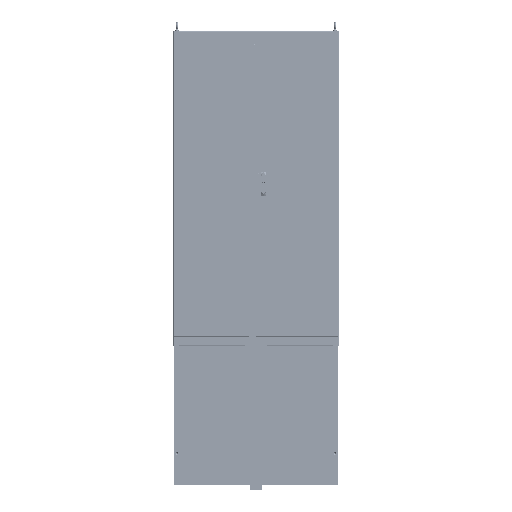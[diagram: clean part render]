
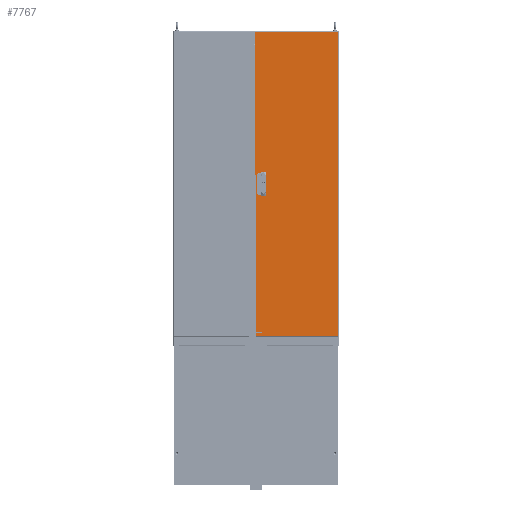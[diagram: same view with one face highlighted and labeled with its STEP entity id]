
A CAD part, front view. The second image highlights one B-rep face of the part: STEP entity #7767.
In plain terms, the highlighted planar face has unit normal (0, -1, 0).
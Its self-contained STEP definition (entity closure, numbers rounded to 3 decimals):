
#7767 = ADVANCED_FACE( '', ( #11697, #11698, #11699, #11700, #11701, #11702 ), #11703, .T. );
#11697 = FACE_BOUND( '', #18807, .T. );
#11698 = FACE_BOUND( '', #18808, .T. );
#11699 = FACE_BOUND( '', #18809, .T. );
#11700 = FACE_OUTER_BOUND( '', #18810, .T. );
#11701 = FACE_BOUND( '', #18811, .T. );
#11702 = FACE_BOUND( '', #18812, .T. );
#11703 = PLANE( '', #18813 );
#18807 = EDGE_LOOP( '', ( #32538, #32539, #32540, #32541 ) );
#18808 = EDGE_LOOP( '', ( #32542 ) );
#18809 = EDGE_LOOP( '', ( #32543, #32544, #32545, #32546 ) );
#18810 = EDGE_LOOP( '', ( #32547, #32548, #32549, #32550 ) );
#18811 = EDGE_LOOP( '', ( #32551, #32552, #32553, #32554 ) );
#18812 = EDGE_LOOP( '', ( #32555 ) );
#18813 = AXIS2_PLACEMENT_3D( '', #32556, #32557, #32558 );
#32538 = ORIENTED_EDGE( '', *, *, #50202, .F. );
#32539 = ORIENTED_EDGE( '', *, *, #50203, .F. );
#32540 = ORIENTED_EDGE( '', *, *, #50204, .F. );
#32541 = ORIENTED_EDGE( '', *, *, #50205, .F. );
#32542 = ORIENTED_EDGE( '', *, *, #50206, .T. );
#32543 = ORIENTED_EDGE( '', *, *, #50207, .F. );
#32544 = ORIENTED_EDGE( '', *, *, #50208, .F. );
#32545 = ORIENTED_EDGE( '', *, *, #50209, .F. );
#32546 = ORIENTED_EDGE( '', *, *, #50210, .F. );
#32547 = ORIENTED_EDGE( '', *, *, #50211, .T. );
#32548 = ORIENTED_EDGE( '', *, *, #50212, .F. );
#32549 = ORIENTED_EDGE( '', *, *, #50213, .F. );
#32550 = ORIENTED_EDGE( '', *, *, #50214, .F. );
#32551 = ORIENTED_EDGE( '', *, *, #50215, .T. );
#32552 = ORIENTED_EDGE( '', *, *, #50216, .T. );
#32553 = ORIENTED_EDGE( '', *, *, #50217, .T. );
#32554 = ORIENTED_EDGE( '', *, *, #50218, .T. );
#32555 = ORIENTED_EDGE( '', *, *, #50219, .T. );
#32556 = CARTESIAN_POINT( '', ( -289.751, 0., -1059.656 ) );
#32557 = DIRECTION( '', ( 0., -1., 0. ) );
#32558 = DIRECTION( '', ( 0., 0., -1. ) );
#50202 = EDGE_CURVE( '', #58129, #58130, #58131, .T. );
#50203 = EDGE_CURVE( '', #58132, #58129, #58133, .T. );
#50204 = EDGE_CURVE( '', #58134, #58132, #58135, .T. );
#50205 = EDGE_CURVE( '', #58130, #58134, #58136, .T. );
#50206 = EDGE_CURVE( '', #58137, #58137, #58138, .T. );
#50207 = EDGE_CURVE( '', #58139, #58140, #58141, .T. );
#50208 = EDGE_CURVE( '', #58142, #58139, #58143, .T. );
#50209 = EDGE_CURVE( '', #58144, #58142, #58145, .T. );
#50210 = EDGE_CURVE( '', #58140, #58144, #58146, .T. );
#50211 = EDGE_CURVE( '', #58147, #58148, #58149, .T. );
#50212 = EDGE_CURVE( '', #58150, #58148, #58151, .T. );
#50213 = EDGE_CURVE( '', #58152, #58150, #58153, .T. );
#50214 = EDGE_CURVE( '', #58147, #58152, #58154, .T. );
#50215 = EDGE_CURVE( '', #58155, #58156, #58157, .T. );
#50216 = EDGE_CURVE( '', #58156, #58158, #58159, .T. );
#50217 = EDGE_CURVE( '', #58158, #58160, #58161, .T. );
#50218 = EDGE_CURVE( '', #58160, #58155, #58162, .T. );
#50219 = EDGE_CURVE( '', #58163, #58163, #58164, .T. );
#58129 = VERTEX_POINT( '', #71039 );
#58130 = VERTEX_POINT( '', #71040 );
#58131 = LINE( '', #71041, #71042 );
#58132 = VERTEX_POINT( '', #71043 );
#58133 = LINE( '', #71044, #71045 );
#58134 = VERTEX_POINT( '', #71046 );
#58135 = LINE( '', #71047, #71048 );
#58136 = LINE( '', #71049, #71050 );
#58137 = VERTEX_POINT( '', #71051 );
#58138 = CIRCLE( '', #71052, 4.013 );
#58139 = VERTEX_POINT( '', #71053 );
#58140 = VERTEX_POINT( '', #71054 );
#58141 = LINE( '', #71055, #71056 );
#58142 = VERTEX_POINT( '', #71057 );
#58143 = LINE( '', #71058, #71059 );
#58144 = VERTEX_POINT( '', #71060 );
#58145 = LINE( '', #71061, #71062 );
#58146 = LINE( '', #71063, #71064 );
#58147 = VERTEX_POINT( '', #71065 );
#58148 = VERTEX_POINT( '', #71066 );
#58149 = LINE( '', #71067, #71068 );
#58150 = VERTEX_POINT( '', #71069 );
#58151 = LINE( '', #71070, #71071 );
#58152 = VERTEX_POINT( '', #71072 );
#58153 = LINE( '', #71073, #71074 );
#58154 = LINE( '', #71075, #71076 );
#58155 = VERTEX_POINT( '', #71077 );
#58156 = VERTEX_POINT( '', #71078 );
#58157 = LINE( '', #71079, #71080 );
#58158 = VERTEX_POINT( '', #71081 );
#58159 = LINE( '', #71082, #71083 );
#58160 = VERTEX_POINT( '', #71084 );
#58161 = LINE( '', #71085, #71086 );
#58162 = LINE( '', #71087, #71088 );
#58163 = VERTEX_POINT( '', #71089 );
#58164 = CIRCLE( '', #71090, 4.013 );
#71039 = CARTESIAN_POINT( '', ( -242.233, 0., 75.006 ) );
#71040 = CARTESIAN_POINT( '', ( -242.233, 0., 24.994 ) );
#71041 = CARTESIAN_POINT( '', ( -242.233, 0., 75.006 ) );
#71042 = VECTOR( '', #88706, 1000. );
#71043 = CARTESIAN_POINT( '', ( -217.239, 0., 75.006 ) );
#71044 = CARTESIAN_POINT( '', ( -217.239, 0., 75.006 ) );
#71045 = VECTOR( '', #88707, 1000. );
#71046 = CARTESIAN_POINT( '', ( -217.239, 0., 24.994 ) );
#71047 = CARTESIAN_POINT( '', ( -217.239, 0., 24.994 ) );
#71048 = VECTOR( '', #88708, 1000. );
#71049 = CARTESIAN_POINT( '', ( -242.233, 0., 24.994 ) );
#71050 = VECTOR( '', #88709, 1000. );
#71051 = CARTESIAN_POINT( '', ( -261.714, 0., 35.001 ) );
#71052 = AXIS2_PLACEMENT_3D( '', #88710, #88711, #88712 );
#71053 = CARTESIAN_POINT( '', ( -266.248, 0., 15.875 ) );
#71054 = CARTESIAN_POINT( '', ( -266.248, 0., -15.875 ) );
#71055 = CARTESIAN_POINT( '', ( -266.248, 0., 15.875 ) );
#71056 = VECTOR( '', #88713, 1000. );
#71057 = CARTESIAN_POINT( '', ( -261.244, 0., 15.875 ) );
#71058 = CARTESIAN_POINT( '', ( -261.244, 0., 15.875 ) );
#71059 = VECTOR( '', #88714, 1000. );
#71060 = CARTESIAN_POINT( '', ( -261.244, 0., -15.875 ) );
#71061 = CARTESIAN_POINT( '', ( -261.244, 0., -15.875 ) );
#71062 = VECTOR( '', #88715, 1000. );
#71063 = CARTESIAN_POINT( '', ( -266.248, 0., -15.875 ) );
#71064 = VECTOR( '', #88716, 1000. );
#71065 = CARTESIAN_POINT( '', ( 287.007, 0., 1056.913 ) );
#71066 = CARTESIAN_POINT( '', ( -287.007, 0., 1056.913 ) );
#71067 = CARTESIAN_POINT( '', ( 287.007, 0., 1056.913 ) );
#71068 = VECTOR( '', #88717, 1000. );
#71069 = CARTESIAN_POINT( '', ( -287.007, 0., -1056.913 ) );
#71070 = CARTESIAN_POINT( '', ( -287.007, 0., -1056.913 ) );
#71071 = VECTOR( '', #88718, 1000. );
#71072 = CARTESIAN_POINT( '', ( 287.007, 0., -1056.913 ) );
#71073 = CARTESIAN_POINT( '', ( 287.007, 0., -1056.913 ) );
#71074 = VECTOR( '', #88719, 1000. );
#71075 = CARTESIAN_POINT( '', ( 287.007, 0., 1056.913 ) );
#71076 = VECTOR( '', #88720, 1000. );
#71077 = CARTESIAN_POINT( '', ( -242.233, 0., -25.019 ) );
#71078 = CARTESIAN_POINT( '', ( -217.239, 0., -25.019 ) );
#71079 = CARTESIAN_POINT( '', ( -242.233, 0., -25.019 ) );
#71080 = VECTOR( '', #88721, 1000. );
#71081 = CARTESIAN_POINT( '', ( -217.239, 0., -75.032 ) );
#71082 = CARTESIAN_POINT( '', ( -217.239, 0., -25.019 ) );
#71083 = VECTOR( '', #88722, 1000. );
#71084 = CARTESIAN_POINT( '', ( -242.233, 0., -75.032 ) );
#71085 = CARTESIAN_POINT( '', ( -217.239, 0., -75.032 ) );
#71086 = VECTOR( '', #88723, 1000. );
#71087 = CARTESIAN_POINT( '', ( -242.233, 0., -75.032 ) );
#71088 = VECTOR( '', #88724, 1000. );
#71089 = CARTESIAN_POINT( '', ( -261.714, 0., -35.001 ) );
#71090 = AXIS2_PLACEMENT_3D( '', #88725, #88726, #88727 );
#88706 = DIRECTION( '', ( 0., 0., -1. ) );
#88707 = DIRECTION( '', ( -1., 0., 0. ) );
#88708 = DIRECTION( '', ( 0., 0., 1. ) );
#88709 = DIRECTION( '', ( 1., 0., 0. ) );
#88710 = CARTESIAN_POINT( '', ( -265.728, 0., 35.001 ) );
#88711 = DIRECTION( '', ( 0., 1., 0. ) );
#88712 = DIRECTION( '', ( 1., 0., 0. ) );
#88713 = DIRECTION( '', ( 0., 0., -1. ) );
#88714 = DIRECTION( '', ( -1., 0., 0. ) );
#88715 = DIRECTION( '', ( 0., 0., 1. ) );
#88716 = DIRECTION( '', ( 1., 0., 0. ) );
#88717 = DIRECTION( '', ( -1., 0., 0. ) );
#88718 = DIRECTION( '', ( 0., 0., 1. ) );
#88719 = DIRECTION( '', ( -1., 0., 0. ) );
#88720 = DIRECTION( '', ( 0., 0., -1. ) );
#88721 = DIRECTION( '', ( 1., 0., 0. ) );
#88722 = DIRECTION( '', ( 0., 0., -1. ) );
#88723 = DIRECTION( '', ( -1., 0., 0. ) );
#88724 = DIRECTION( '', ( 0., 0., 1. ) );
#88725 = CARTESIAN_POINT( '', ( -265.728, 0., -35.001 ) );
#88726 = DIRECTION( '', ( 0., 1., 0. ) );
#88727 = DIRECTION( '', ( 1., 0., 0. ) );
